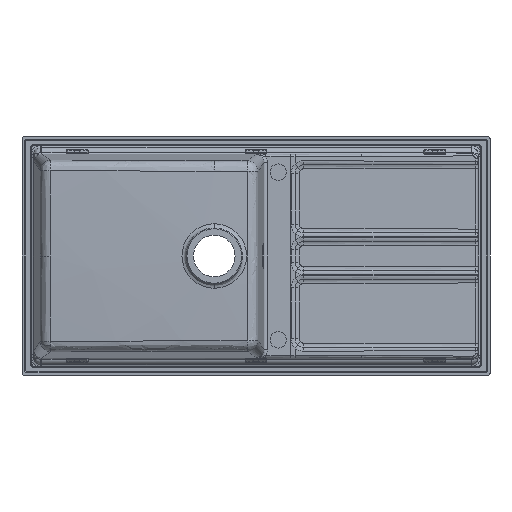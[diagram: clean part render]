
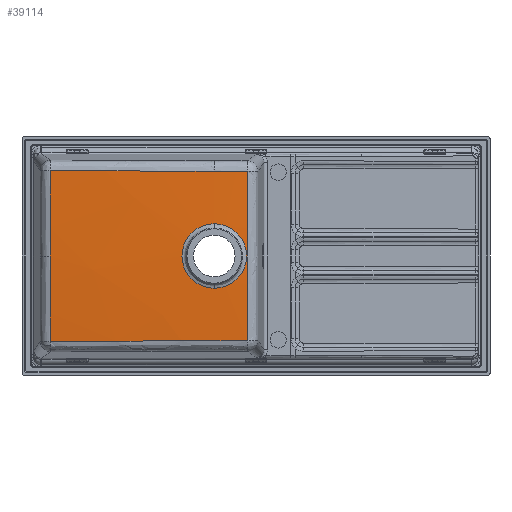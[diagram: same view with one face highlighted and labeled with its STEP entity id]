
A CAD part, front view. The second image highlights one B-rep face of the part: STEP entity #39114.
In plain terms, the highlighted free-form (B-spline) face has degree [3, 3] with [4, 4] control points.
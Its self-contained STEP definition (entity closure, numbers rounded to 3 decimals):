
#96 = DIRECTION ( 'NONE',  ( 0., -0.996, -0.087 ) ) ;
#395 = AXIS2_PLACEMENT_3D ( 'NONE', #15047, #40037, #96 ) ;
#533 = VERTEX_POINT ( 'NONE', #11236 ) ;
#1280 = CARTESIAN_POINT ( 'NONE',  ( -18.589, -194.214, 181.42 ) ) ;
#1442 = AXIS2_PLACEMENT_3D ( 'NONE', #8251, #19877, #8386 ) ;
#1563 = CARTESIAN_POINT ( 'NONE',  ( -89.23, -194.714, 181.376 ) ) ;
#1686 = CARTESIAN_POINT ( 'NONE',  ( -342.986, -177.287, 377.679 ) ) ;
#1827 = AXIS2_PLACEMENT_3D ( 'NONE', #19959, #13859, #35490 ) ;
#2156 = VERTEX_POINT ( 'NONE', #32718 ) ;
#3537 = CARTESIAN_POINT ( 'NONE',  ( -89.23, -197.525, 68.952 ) ) ;
#3556 = CARTESIAN_POINT ( 'NONE',  ( -870.524, 4741.646, 0. ) ) ;
#3562 = AXIS2_PLACEMENT_3D ( 'NONE', #11019, #23752, #32675 ) ;
#3939 = AXIS2_PLACEMENT_3D ( 'NONE', #3556, #31283, #12720 ) ;
#4752 = EDGE_LOOP ( 'NONE', ( #37749, #23784 ) ) ;
#6553 = DIRECTION ( 'NONE',  ( 0., 0.087, -0.996 ) ) ;
#8230 = EDGE_CURVE ( 'NONE', #26685, #36588, #14633, .T. ) ;
#8251 = CARTESIAN_POINT ( 'NONE',  ( 415.361, 4765.854, 0. ) ) ;
#8386 = DIRECTION ( 'NONE',  ( 0.087, 0.996, 0. ) ) ;
#8547 = CIRCLE ( 'NONE', #9258, 4969.862 ) ;
#8721 = ORIENTED_EDGE ( 'NONE', *, *, #17831, .T. ) ;
#9195 = VERTEX_POINT ( 'NONE', #18021 ) ;
#9258 = AXIS2_PLACEMENT_3D ( 'NONE', #36020, #17513, #26712 ) ;
#10569 = CARTESIAN_POINT ( 'NONE',  ( -56.204, -195.665, -234.033 ) ) ;
#10960 = CARTESIAN_POINT ( 'NONE',  ( -168.477, -183.351, -374.471 ) ) ;
#11019 = CARTESIAN_POINT ( 'NONE',  ( -89.23, -197.525, 0. ) ) ;
#11236 = CARTESIAN_POINT ( 'NONE',  ( -18.589, -194.214, -181.42 ) ) ;
#11446 = FACE_OUTER_BOUND ( 'NONE', #35794, .T. ) ;
#12720 = DIRECTION ( 'NONE',  ( 0.087, -0.996, 0. ) ) ;
#13668 = CARTESIAN_POINT ( 'NONE',  ( -588.983, -171.934, -103.161 ) ) ;
#13859 = DIRECTION ( 'NONE',  ( 0., 1., 0. ) ) ;
#14633 = CIRCLE ( 'NONE', #395, 4969.862 ) ;
#15047 = CARTESIAN_POINT ( 'NONE',  ( -89.23, 4756.236, 614.528 ) ) ;
#15350 = VERTEX_POINT ( 'NONE', #1280 ) ;
#16934 = CARTESIAN_POINT ( 'NONE',  ( -299.542, -189.091, -270.195 ) ) ;
#17200 = CARTESIAN_POINT ( 'NONE',  ( 167.985, -191.16, 48.001 ) ) ;
#17333 = CARTESIAN_POINT ( 'NONE',  ( -348.121, -197.724, -24.52 ) ) ;
#17513 = DIRECTION ( 'NONE',  ( 0., 0.087, 0.996 ) ) ;
#17831 = EDGE_CURVE ( 'NONE', #20637, #533, #8547, .T. ) ;
#18021 = CARTESIAN_POINT ( 'NONE',  ( -89.23, -197.525, -68.952 ) ) ;
#19031 = EDGE_CURVE ( 'NONE', #21519, #9195, #38018, .T. ) ;
#19331 = DIRECTION ( 'NONE',  ( 0.996, 0.087, 0. ) ) ;
#19675 = EDGE_CURVE ( 'NONE', #9195, #21519, #31261, .T. ) ;
#19877 = DIRECTION ( 'NONE',  ( 0.996, -0.087, 0. ) ) ;
#19959 = CARTESIAN_POINT ( 'NONE',  ( -89.23, -197.525, 0. ) ) ;
#20637 = VERTEX_POINT ( 'NONE', #28621 ) ;
#20717 = CIRCLE ( 'NONE', #21104, 4969.862 ) ;
#21104 = AXIS2_PLACEMENT_3D ( 'NONE', #37362, #6553, #22219 ) ;
#21519 = VERTEX_POINT ( 'NONE', #3537 ) ;
#22219 = DIRECTION ( 'NONE',  ( 0., -0.996, -0.087 ) ) ;
#23026 = CARTESIAN_POINT ( 'NONE',  ( -440.323, -185.269, -179.363 ) ) ;
#23156 = CARTESIAN_POINT ( 'NONE',  ( -162.344, -193.49, 285.083 ) ) ;
#23294 = CARTESIAN_POINT ( 'NONE',  ( 56.059, -198.27, -93.072 ) ) ;
#23417 = CARTESIAN_POINT ( 'NONE',  ( -425.678, -185.191, 217.744 ) ) ;
#23752 = DIRECTION ( 'NONE',  ( 0., 1., 0. ) ) ;
#23784 = ORIENTED_EDGE ( 'NONE', *, *, #19675, .T. ) ;
#23979 = ORIENTED_EDGE ( 'NONE', *, *, #37823, .T. ) ;
#26100 =( BOUNDED_SURFACE ( )  B_SPLINE_SURFACE ( 3, 3, ( 
 ( #1686, #23156, #26139, #17200 ),
 ( #23417, #32611, #26657, #23294 ),
 ( #29638, #17333, #26524, #10569 ),
 ( #13668, #23026, #16934, #10960 ) ),
 .UNSPECIFIED., .F., .F., .F. ) 
 B_SPLINE_SURFACE_WITH_KNOTS ( ( 4, 4 ),
 ( 4, 4 ),
 ( 0., 1. ),
 ( 0., 1. ),
 .UNSPECIFIED. ) 
 GEOMETRIC_REPRESENTATION_ITEM ( )  RATIONAL_B_SPLINE_SURFACE ( (
 ( 1., 0.996, 0.996, 1.),
 ( 0.999, 0.995, 0.995, 0.999),
 ( 0.999, 0.995, 0.995, 0.999),
 ( 1., 0.996, 0.996, 1.) ) ) 
 REPRESENTATION_ITEM ( '' )  SURFACE ( )  );
#26139 = CARTESIAN_POINT ( 'NONE',  ( 8.724, -198.135, 174.71 ) ) ;
#26339 = DIRECTION ( 'NONE',  ( 0.087, -0.996, 0. ) ) ;
#26524 = CARTESIAN_POINT ( 'NONE',  ( -196.946, -201.829, -122.058 ) ) ;
#26657 = CARTESIAN_POINT ( 'NONE',  ( -94.091, -204.846, 26.387 ) ) ;
#26685 = VERTEX_POINT ( 'NONE', #1563 ) ;
#26712 = DIRECTION ( 'NONE',  ( 0., 0.996, -0.087 ) ) ;
#27976 = CARTESIAN_POINT ( 'NONE',  ( -870.524, 4741.646, 0. ) ) ;
#28621 = CARTESIAN_POINT ( 'NONE',  ( -439.727, -182.387, -182.455 ) ) ;
#29273 = ORIENTED_EDGE ( 'NONE', *, *, #33533, .F. ) ;
#29543 = CIRCLE ( 'NONE', #39391, 4946.208 ) ;
#29638 = CARTESIAN_POINT ( 'NONE',  ( -507.756, -183.405, 57.308 ) ) ;
#30847 = FACE_BOUND ( 'NONE', #4752, .T. ) ;
#30920 = EDGE_CURVE ( 'NONE', #2156, #20637, #29543, .T. ) ;
#31261 = CIRCLE ( 'NONE', #1827, 68.952 ) ;
#31283 = DIRECTION ( 'NONE',  ( 0.996, 0.087, 0. ) ) ;
#31378 = ORIENTED_EDGE ( 'NONE', *, *, #30920, .T. ) ;
#32611 = CARTESIAN_POINT ( 'NONE',  ( -255.371, -200.467, 130.445 ) ) ;
#32675 = DIRECTION ( 'NONE',  ( 0., 0., 1. ) ) ;
#32718 = CARTESIAN_POINT ( 'NONE',  ( -439.433, -185.74, 0. ) ) ;
#32940 = ORIENTED_EDGE ( 'NONE', *, *, #8230, .T. ) ;
#33533 = EDGE_CURVE ( 'NONE', #15350, #533, #35725, .T. ) ;
#33948 = CARTESIAN_POINT ( 'NONE',  ( -439.727, -182.387, 182.455 ) ) ;
#34007 = EDGE_CURVE ( 'NONE', #15350, #26685, #20717, .T. ) ;
#35490 = DIRECTION ( 'NONE',  ( 0., 0., 1. ) ) ;
#35725 = CIRCLE ( 'NONE', #1442, 4982.319 ) ;
#35794 = EDGE_LOOP ( 'NONE', ( #29273, #38948, #32940, #23979, #31378, #8721 ) ) ;
#36020 = CARTESIAN_POINT ( 'NONE',  ( -89.23, 4756.236, -614.528 ) ) ;
#36588 = VERTEX_POINT ( 'NONE', #33948 ) ;
#37362 = CARTESIAN_POINT ( 'NONE',  ( -89.23, 4756.236, 614.528 ) ) ;
#37749 = ORIENTED_EDGE ( 'NONE', *, *, #19031, .T. ) ;
#37823 = EDGE_CURVE ( 'NONE', #36588, #2156, #38469, .T. ) ;
#38018 = CIRCLE ( 'NONE', #3562, 68.952 ) ;
#38469 = CIRCLE ( 'NONE', #3939, 4946.208 ) ;
#38948 = ORIENTED_EDGE ( 'NONE', *, *, #34007, .T. ) ;
#39114 = ADVANCED_FACE ( 'NONE', ( #11446, #30847 ), #26100, .T. ) ;
#39391 = AXIS2_PLACEMENT_3D ( 'NONE', #27976, #19331, #26339 ) ;
#40037 = DIRECTION ( 'NONE',  ( 0., 0.087, -0.996 ) ) ;
